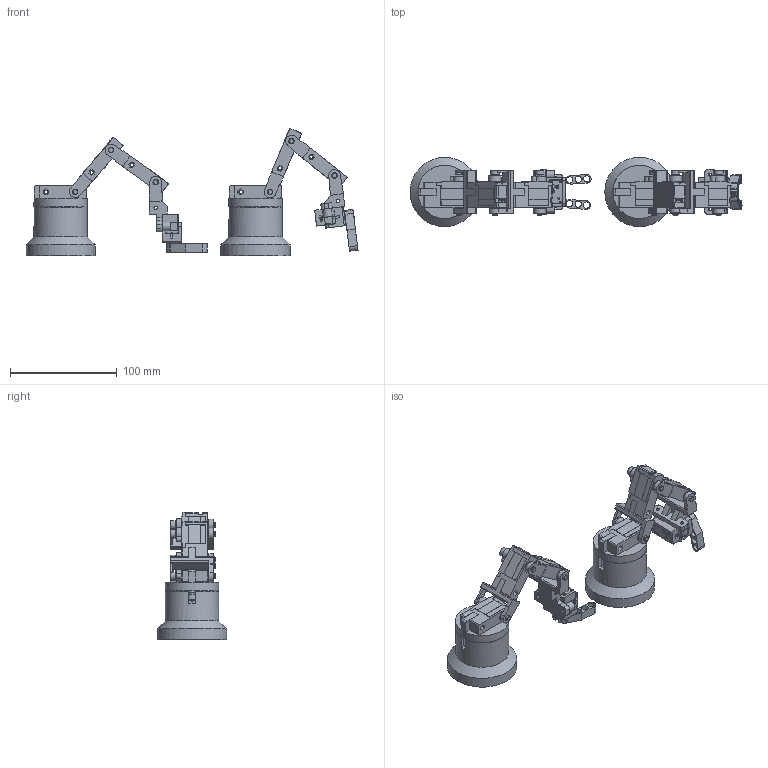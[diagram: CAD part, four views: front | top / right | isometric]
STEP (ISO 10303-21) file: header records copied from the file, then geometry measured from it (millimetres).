
FILE_DESCRIPTION(/* description */ (''),/* implementation_level */ '2;1');
FILE_NAME(/* name */ 'Assieme_robot_mg90s.stp',/* time_stamp */ '2026-03-25T11:14:59+01:00',/* author */ ('Ryzen5700u'),/* organization */ (''),/* preprocessor_version */ 'ST-DEVELOPER v20',/* originating_system */ 'Autodesk Inventor 2025',/* authorisation */ '');
FILE_SCHEMA (('AUTOMOTIVE_DESIGN { 1 0 10303 214 3 1 1 }'));
Length unit declared in the file: millimetre
Products named in the file (24): Assieme_robot_mg90s; Assieme_robot_mg90s_2; Assieme_mg90s_perno; Assieme_mg90s_perno_1; Assieme_mg90s_perno_2; Assieme_pinza_m5; blocco_pinza_verticale; Assieme_robot_mg90s_1; Assieme_mg90s_perno_3; Assieme_mg90s_perno_4; base_ruota; Assieme_mg90s_perno_5; MG90_ldb; blocco_mg90s; MG90S ARM; braccio_mobile_mg90s; base; Assieme_pinza_m5_orizzontale; Ingranaggio cilindrico11_MIR; Ingranaggio cilindrico11; SG90 - Micro Servo 9g - Tower Pro.1_Pea; corpo_m5; AS 1420 - 1973 - M3 x 6; blocco_pinza
Assembly tree (54 placements, depth 4):
  Assieme_robot_mg90s
    Assieme_robot_mg90s_2
      Assieme_mg90s_perno
        MG90_ldb
        blocco_mg90s
        MG90S ARM
        braccio_mobile_mg90s
      Assieme_mg90s_perno_1
        MG90_ldb
        blocco_mg90s
        MG90S ARM
        braccio_mobile_mg90s
      base_ruota
      MG90_ldb
      MG90S ARM
      Assieme_mg90s_perno_2
        MG90_ldb
        blocco_mg90s
        MG90S ARM
        braccio_mobile_mg90s
      base
      Assieme_pinza_m5
        Ingranaggio cilindrico11_MIR
        Ingranaggio cilindrico11
        SG90 - Micro Servo 9g - Tower Pro.1_Pea
        corpo_m5
        AS 1420 - 1973 - M3 x 6
        blocco_pinza_verticale
    Assieme_robot_mg90s_1
      Assieme_mg90s_perno_3
        MG90_ldb
        blocco_mg90s
        MG90S ARM
        braccio_mobile_mg90s
      Assieme_mg90s_perno_4
        MG90_ldb
        blocco_mg90s
        MG90S ARM
        braccio_mobile_mg90s
      base_ruota
      MG90_ldb
      MG90S ARM
      Assieme_mg90s_perno_5
        MG90_ldb
        blocco_mg90s
        MG90S ARM
        braccio_mobile_mg90s
      base
      Assieme_pinza_m5_orizzontale
        Ingranaggio cilindrico11_MIR
        Ingranaggio cilindrico11
        SG90 - Micro Servo 9g - Tower Pro.1_Pea
        corpo_m5
        AS 1420 - 1973 - M3 x 6
        blocco_pinza
Bounding box: 311.7 x 65 x 119.46 mm (x, y, z)
Volume: 312930.9 mm3; surface area: 147312.3 mm2
Topology: 68 solids, 68 shells, 5304 faces, 16004 edges, 11134 vertices
Faces by surface type: plane 3688, cylinder 1434, bspline 98, torus 60, cone 20, sphere 4
Full cylindrical faces by diameter (mm): 0.2 x2, 0.5 x2, 1 x6, 1.167 x24, 1.6 x4, 1.8 x8, 2 x40, 2.2 x8, 2.4 x6, 2.5 x14, 3 x2, 3.2 x30, 4.8 x4, 5 x14, 5.1 x6, 5.5 x2, 6 x14, 8.2 x2, 50 x4, 65 x2
Entity records: 58411 total; most frequent: CARTESIAN_POINT 17288, ORIENTED_EDGE 8864, DIRECTION 7560, EDGE_CURVE 4432, VERTEX_POINT 3193, LINE 2904, VECTOR 2904, AXIS2_PLACEMENT_3D 2328
